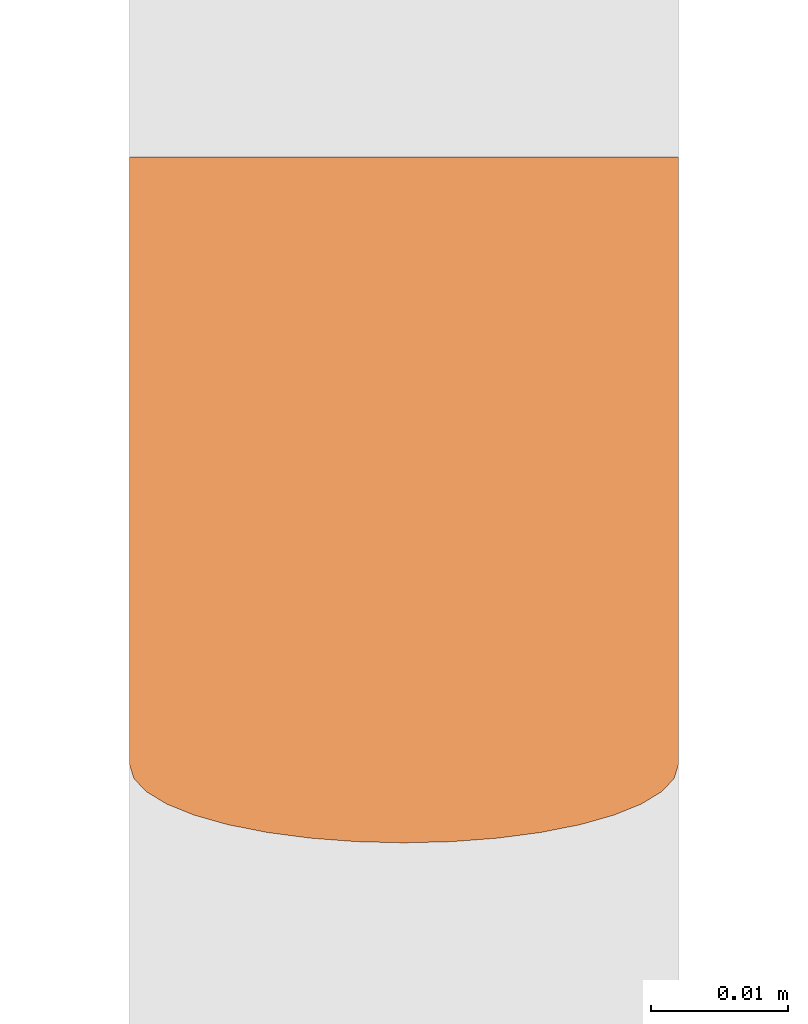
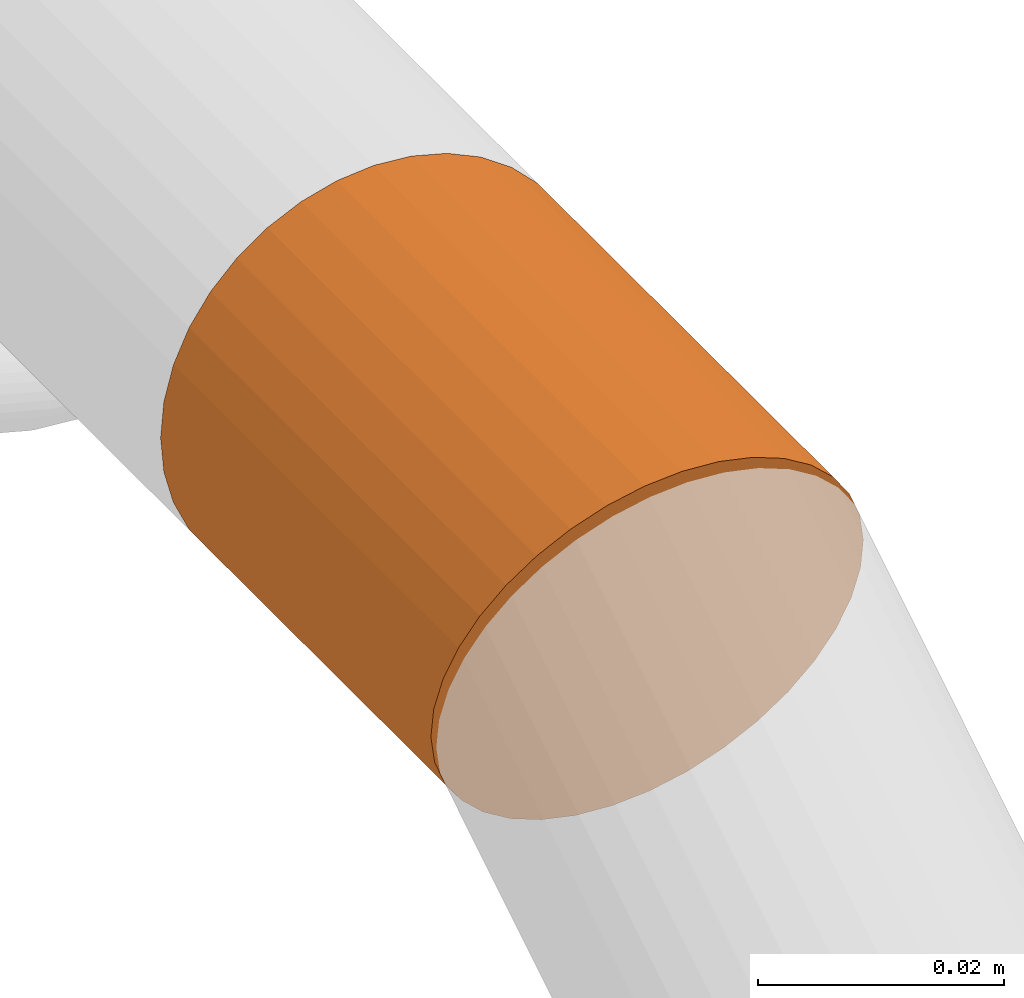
# One storey, part 100 of 100: 1 proxy, 1 element without a shape of its own.
"""IFC2X3 building model written with IfcOpenShell, lengths in millimetres."""

import ifcopenshell
import ifcopenshell.guid

model = None  # the IFC model being written
_history = None  # IfcOwnerHistory: only IFC2X3 demands one
_inside = {}  # id of a spatial element -> (the spatial element, [elements in it])
_under = {}  # id of a project, library or spatial element -> (it, [spatial elements below it])
_declared = {}  # id of a project -> (the project, [libraries it declares])
_typed = {}  # id of a type object -> (the type object, [elements of that type])
_made_of = {}  # id of a material, layer set ... -> (it, [elements and type objects made of it])


def new_model(schema):
    """Start an empty IFC model of exactly this schema.

    Asked for "IFC4X3", IfcOpenShell would pick the latest addendum, in which some entities
    have other attributes; the version numbers below select the first issue.
    IFC2X3 requires an IfcOwnerHistory on every rooted entity: one is made here for all.
    """
    global model, _history
    if schema == "IFC4X3":
        model = ifcopenshell.file(schema_version=(4, 3, 0, 0))
    else:
        model = ifcopenshell.file(schema=schema)
    _inside.clear()
    _under.clear()
    _declared.clear()
    _typed.clear()
    _made_of.clear()
    _history = None
    if model.schema == "IFC2X3":
        org = make("IfcOrganization", Name="unknown")
        user = make(
            "IfcPersonAndOrganization",
            ThePerson=make("IfcPerson", FamilyName="unknown"),
            TheOrganization=org,
        )
        app = make(
            "IfcApplication",
            ApplicationDeveloper=org,
            Version="unknown",
            ApplicationFullName="unknown",
            ApplicationIdentifier="unknown",
        )
        _history = make(
            "IfcOwnerHistory",
            OwningUser=user,
            OwningApplication=app,
            ChangeAction="ADDED",
            CreationDate=0,
        )
    return model


def make(cls, **values):
    """One entity of the class cls with the attributes given. An attribute that is None is left unset."""
    return model.create_entity(
        cls, **{name: value for name, value in values.items() if value is not None}
    )


def entity(cls, *values):
    """Any entity or typed value of the class cls, its attributes in the order of the schema. None: left unset."""
    e = model.create_entity(cls)
    for i, value in enumerate(values):
        if value is not None:
            e[i] = value
    return e


def rooted(cls, **values):
    """An entity with a GlobalId (a new one), such as an element, a storey or a relation."""
    return make(cls, GlobalId=ifcopenshell.guid.new(), OwnerHistory=_history, **values)


def si_unit(unit_type, name, prefix=None):
    """IfcSIUnit, for example si_unit("LENGTHUNIT", "METRE", prefix="MILLI")."""
    return make("IfcSIUnit", UnitType=unit_type, Prefix=prefix, Name=name)


def converted_unit(unit_type, name, factor, base, dimensions=None, offset=None):
    """IfcConversionBasedUnit, such as the inch: factor (a typed value) times the base unit."""
    return make(
        "IfcConversionBasedUnit"
        if offset is None
        else "IfcConversionBasedUnitWithOffset",
        ConversionOffset=offset,
        Dimensions=None
        if dimensions is None
        else entity("IfcDimensionalExponents", *dimensions),
        UnitType=unit_type,
        Name=name,
        ConversionFactor=make(
            "IfcMeasureWithUnit", ValueComponent=factor, UnitComponent=base
        ),
    )


def derived_unit(unit_type, elements):
    """IfcDerivedUnit: a product of units, each with its exponent."""
    return make(
        "IfcDerivedUnit",
        Elements=[
            make("IfcDerivedUnitElement", Unit=unit, Exponent=power)
            for unit, power in elements
        ],
        UnitType=unit_type,
    )


def money_unit(currency):
    """IfcMonetaryUnit."""
    return make("IfcMonetaryUnit", Currency=currency)


def assignment(units):
    """IfcUnitAssignment: the units of a project."""
    return None if units is None else make("IfcUnitAssignment", Units=units)


def point(xyz):
    """IfcCartesianPoint."""
    return None if xyz is None else make("IfcCartesianPoint", Coordinates=xyz)


def direction(xyz):
    """IfcDirection."""
    return None if xyz is None else make("IfcDirection", DirectionRatios=xyz)


def frame(location, z_axis=None, x_axis=None):
    """IfcAxis2Placement3D, a coordinate frame: its origin and axes. An axis left out is left unset."""
    return make(
        "IfcAxis2Placement3D",
        Location=point(location),
        Axis=direction(z_axis),
        RefDirection=direction(x_axis),
    )


def origin_with_axes():
    """The frame at (0, 0, 0) with the z axis (0, 0, 1) and the x axis (1, 0, 0) written out."""
    return frame((0.0, 0.0, 0.0), z_axis=(0.0, 0.0, 1.0), x_axis=(1.0, 0.0, 0.0))


def place(relative_to, where):
    """IfcLocalPlacement: puts the frame where relative to a parent placement (None: the world)."""
    return make(
        "IfcLocalPlacement", PlacementRelTo=relative_to, RelativePlacement=where
    )


def context(
    kind, dimensions, precision=None, world=None, true_north=None, identifier=None
):
    """IfcGeometricRepresentationContext, for example the 3D "Model" context."""
    return make(
        "IfcGeometricRepresentationContext",
        ContextIdentifier=identifier,
        ContextType=kind,
        CoordinateSpaceDimension=dimensions,
        Precision=precision,
        WorldCoordinateSystem=world,
        TrueNorth=true_north,
    )


def subcontext(parent, identifier, kind, view, scale=None):
    """IfcGeometricRepresentationSubContext, for example "Body" below "Model"."""
    return make(
        "IfcGeometricRepresentationSubContext",
        ContextIdentifier=identifier,
        ContextType=kind,
        ParentContext=parent,
        TargetScale=scale,
        TargetView=view,
    )


def project(units=None, contexts=None):
    """IfcProject with its units and contexts."""
    return rooted(
        "IfcProject",
        Name="project",
        RepresentationContexts=contexts,
        UnitsInContext=assignment(units),
    )


def spatial(cls, under=None, at=None, **own):
    """A site, building, storey or space (cls), placed at a placement, below another one or the project."""
    s = rooted(cls, ObjectPlacement=at, **own)
    if under is not None:
        _under.setdefault(under.id(), (under, []))[1].append(s)
    return s


def faces_of(points, faces, orient=None, outer=None):
    """IfcFace entities. A face is a list of loops; a loop is a list of indices into points, from 0.

    orient and outer hold one flag for each loop. By default every Orientation is true, the
    first loop of a face is its IfcFaceOuterBound and the others are IfcFaceBound.
    """
    made = []
    for i, loops in enumerate(faces):
        bounds = []
        for j, loop in enumerate(loops):
            is_outer = j == 0 if outer is None else outer[i][j]
            bounds.append(
                make(
                    "IfcFaceOuterBound" if is_outer else "IfcFaceBound",
                    Bound=make("IfcPolyLoop", Polygon=[points[k] for k in loop]),
                    Orientation=True if orient is None else orient[i][j],
                )
            )
        made.append(make("IfcFace", Bounds=bounds))
    return made


def faceted_brep(points, faces, orient=None, outer=None, voids=None):
    """IfcFacetedBrep: a solid bounded by flat faces; with voids (closed shells), ...WithVoids."""
    shared = [point(p) for p in points]
    hull = make("IfcClosedShell", CfsFaces=faces_of(shared, faces, orient, outer))
    if voids is None:
        return make("IfcFacetedBrep", Outer=hull)
    return make(
        "IfcFacetedBrepWithVoids",
        Outer=hull,
        Voids=[
            make(cls, CfsFaces=faces_of(shared, fs, o, b)) for cls, fs, o, b in voids
        ],
    )


def shape(context_of_items, identifier, shape_type, items):
    """IfcShapeRepresentation: the items that make up one representation, for example the "Body"."""
    return make(
        "IfcShapeRepresentation",
        ContextOfItems=context_of_items,
        RepresentationIdentifier=identifier,
        RepresentationType=shape_type,
        Items=items,
    )


def material(Name=None, Category=None):
    """IfcMaterial."""
    return make("IfcMaterial", Name=Name, Category=Category)


def made_of(thing, what):
    """Note that an element or type object is made of a material, layer set ...; save() writes the relation."""
    if what is not None:
        _made_of.setdefault(what.id(), (what, []))[1].append(thing)
    return thing


def type_object(cls, material=None, **own):
    """A type object (cls), such as IfcWallType, which elements share."""
    return made_of(rooted(cls, **own), material)


def element(
    cls,
    number,
    at=None,
    inside=None,
    cuts=None,
    type_object=None,
    material=None,
    context=None,
    identifier="Body",
    shape_type=None,
    held_by="IfcProductDefinitionShape",
    body=None,
    shapes=None,
    **own,
):
    """One element of the class cls, such as IfcWall. Its Tag is "e" and its number.

    at: its placement. inside: the storey or other place that contains it. cuts: it is an
    opening in that element (IfcRelVoidsElement). A single representation is given by context,
    identifier, shape_type and body (its items); several are given by shapes. held_by: the class
    of the entity that holds the representations. save() writes the other relations.
    """
    e = rooted(cls, Tag="e%d" % number, ObjectPlacement=at, **own)
    if body is not None:
        shapes = [shape(context, identifier, shape_type, body)]
    if shapes is not None:
        e.Representation = make(held_by, Representations=shapes)
    if inside is not None:
        _inside.setdefault(inside.id(), (inside, []))[1].append(e)
    if cuts is not None:
        rooted(
            "IfcRelVoidsElement", RelatingBuildingElement=cuts, RelatedOpeningElement=e
        )
    if type_object is not None:
        _typed.setdefault(type_object.id(), (type_object, []))[1].append(e)
    return made_of(e, material)


def aggregate(whole, parts):
    """IfcRelAggregates: a whole, such as a stair, and the parts it consists of."""
    return rooted("IfcRelAggregates", RelatingObject=whole, RelatedObjects=parts)


def save(model, path):
    """Write the relations noted so far, then the file.

    IfcRelAggregates (storeys below a building ...), IfcRelContainedInSpatialStructure (elements
    in a storey), IfcRelDefinesByType, IfcRelAssociatesMaterial and IfcRelDeclares: one each for
    every whole, place, type object, material and project.
    """
    for whole, parts in _under.values():
        aggregate(whole, parts)
    for where, things in _inside.values():
        rooted(
            "IfcRelContainedInSpatialStructure",
            RelatedElements=things,
            RelatingStructure=where,
        )
    for kind, things in _typed.values():
        rooted("IfcRelDefinesByType", RelatedObjects=things, RelatingType=kind)
    for what, things in _made_of.values():
        rooted("IfcRelAssociatesMaterial", RelatedObjects=things, RelatingMaterial=what)
    for by, libraries in _declared.values():
        rooted("IfcRelDeclares", RelatingContext=by, RelatedDefinitions=libraries)
    model.write(path)


model = new_model("IFC2X3")

# Units and contexts
model_context = context("Model", 3, precision=0.01, world=origin_with_axes(), true_north=direction((0.0, 1.0)))
body_context = subcontext(model_context, "Body", "Model", "MODEL_VIEW")
ifc_project = project(units=[si_unit("LENGTHUNIT", "METRE", prefix="MILLI"), si_unit("AREAUNIT", "SQUARE_METRE"), si_unit("VOLUMEUNIT", "CUBIC_METRE"), converted_unit("PLANEANGLEUNIT", "DEGREE", entity("IfcPlaneAngleMeasure", 0.0174532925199), si_unit("PLANEANGLEUNIT", "RADIAN"), dimensions=[0, 0, 0, 0, 0, 0, 0]), si_unit("SOLIDANGLEUNIT", "STERADIAN"), money_unit("EUR"), converted_unit("TIMEUNIT", "Year", entity("IfcTimeMeasure", 31556926.0), si_unit("TIMEUNIT", "SECOND"), dimensions=[0, 0, 1, 0, 0, 0, 0]), si_unit("MASSUNIT", "GRAM", prefix="KILO"), si_unit("THERMODYNAMICTEMPERATUREUNIT", "DEGREE_CELSIUS"), si_unit("LUMINOUSINTENSITYUNIT", "LUMEN"), si_unit("ENERGYUNIT", "JOULE", prefix="MEGA"), derived_unit("THERMALCONDUCTANCEUNIT", [(si_unit("POWERUNIT", "WATT"), 1), (si_unit("LENGTHUNIT", "METRE"), -1), (si_unit("THERMODYNAMICTEMPERATUREUNIT", "KELVIN"), -1)]), derived_unit("SPECIFICHEATCAPACITYUNIT", [(si_unit("ENERGYUNIT", "JOULE"), 1), (si_unit("MASSUNIT", "GRAM", prefix="KILO"), -1), (si_unit("THERMODYNAMICTEMPERATUREUNIT", "KELVIN"), -1)]), derived_unit("MASSDENSITYUNIT", [(si_unit("MASSUNIT", "GRAM", prefix="KILO"), 1), (si_unit("VOLUMEUNIT", "CUBIC_METRE"), -1)])], contexts=[model_context])

# Site, building, storey
site_placement = place(None, origin_with_axes())
site = spatial("IfcSite", under=ifc_project, at=site_placement, Name="Politse- ja Piirivalveameti ning Päästeameti ühishoone", CompositionType="ELEMENT")
building_placement = place(site_placement, origin_with_axes())
building = spatial("IfcBuilding", under=site, at=building_placement, Name="Politse- ja Piirivalveameti ning Päästeameti ühishoone", CompositionType="ELEMENT")
storey_placement = place(building_placement, frame((0.0, 0.0, 3800.0), z_axis=(0.0, 0.0, 1.0), x_axis=(1.0, 0.0, 0.0)))
storey = spatial("IfcBuildingStorey", under=building, at=storey_placement, Name="Teine korrus", CompositionType="ELEMENT", Elevation=3800.0)

# Railing, proxy
railing_type = type_object("IfcRailingType", Name="Railing Type", PredefinedType="NOTDEFINED")
railing_placement = place(storey_placement, frame((62860.557259, 16419.9520832, -3627.27272727), z_axis=(0.0, 0.0, 1.0), x_axis=(1.0, 0.0, 0.0)))
railing = element("IfcRailing", 1, at=railing_placement, inside=storey, type_object=railing_type, Name="PIIRE 5", PredefinedType="NOTDEFINED")
ifc_material = material(Name="Teras - Konstruktsioon")
building_element_proxy_type = type_object("IfcBuildingElementProxyType", Name="IfcBuildingElementProxy", PredefinedType="NOTDEFINED")
proxy_placement = place(railing_placement, origin_with_axes())
proxy = element("IfcBuildingElementProxy", 2, at=proxy_placement, type_object=building_element_proxy_type, material=ifc_material, Name="HANDRAIL CONNECTION - 001", context=body_context, shape_type="Brep", body=[
    faceted_brep([(-65.3038449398, 2850.0, 2703.79976372), (-65.0, 2850.0, 2707.27272727), (-65.0, 2805.67257746, 2707.27272727), (-65.3038449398, 2806.6576102, 2703.79976372), (-65.3038449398, 2850.0, 2710.74569083), (-66.2061475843, 2850.0, 2700.43232441), (-67.6794919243, 2850.0, 2697.27272727), (-69.6791111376, 2850.0, 2694.41697508), (-72.1442478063, 2850.0, 2691.95183841), (-75.0, 2850.0, 2689.9522192), (-78.1595971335, 2850.0, 2688.47887486), (-81.5270364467, 2850.0, 2687.57657221), (-85.0, 2850.0, 2687.27272727), (-88.4729635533, 2850.0, 2687.57657221), (-91.8404028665, 2850.0, 2688.47887486), (-95.0, 2850.0, 2689.9522192), (-97.8557521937, 2850.0, 2691.95183841), (-100.320888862, 2850.0, 2694.41697508), (-102.320508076, 2850.0, 2697.27272727), (-103.793852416, 2850.0, 2700.43232441), (-104.69615506, 2850.0, 2703.79976372), (-105.0, 2850.0, 2707.27272727), (-104.69615506, 2850.0, 2710.74569083), (-103.793852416, 2850.0, 2714.11313014), (-102.320508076, 2850.0, 2717.27272727), (-100.320888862, 2850.0, 2720.12847947), (-97.8557521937, 2850.0, 2722.59361614), (-95.0, 2850.0, 2724.59323535), (-91.8404028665, 2850.0, 2726.06657969), (-88.4729635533, 2850.0, 2726.96888233), (-85.0, 2850.0, 2727.27272727), (-81.5270364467, 2850.0, 2726.96888233), (-78.1595971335, 2850.0, 2726.06657969), (-75.0, 2850.0, 2724.59323535), (-72.1442478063, 2850.0, 2722.59361614), (-69.6791111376, 2850.0, 2720.12847947), (-67.6794919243, 2850.0, 2717.27272727), (-66.2061475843, 2850.0, 2714.11313014), (-65.3038449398, 2804.68754472, 2710.74569083), (-102.320508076, 2802.83628873, 2717.27272727), (-103.793852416, 2803.73244171, 2714.11313014), (-104.69615506, 2804.68754472, 2710.74569083), (-105.0, 2805.67257746, 2707.27272727), (-104.69615506, 2806.6576102, 2703.79976372), (-103.793852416, 2807.61271322, 2700.43232441), (-102.320508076, 2808.50886619, 2697.27272727), (-100.320888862, 2809.31883997, 2694.41697508), (-97.8557521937, 2810.01802391, 2691.95183841), (-95.0, 2810.58517365, 2689.9522192), (-91.8404028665, 2811.00305664, 2688.47887486), (-88.4729635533, 2811.25897573, 2687.57657221), (-85.0, 2811.34515492, 2687.27272727), (-81.5270364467, 2811.25897573, 2687.57657221), (-78.1595971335, 2811.00305664, 2688.47887486), (-75.0, 2810.58517365, 2689.9522192), (-72.1442478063, 2810.01802391, 2691.95183841), (-69.6791111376, 2809.31883997, 2694.41697508), (-67.6794919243, 2808.50886619, 2697.27272727), (-66.2061475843, 2807.61271322, 2700.43232441), (-66.2061475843, 2803.73244171, 2714.11313014), (-67.6794919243, 2802.83628873, 2717.27272727), (-69.6791111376, 2802.02631495, 2720.12847947), (-72.1442478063, 2801.32713102, 2722.59361614), (-75.0, 2800.75998128, 2724.59323535), (-78.1595971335, 2800.34209828, 2726.06657969), (-81.5270364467, 2800.0861792, 2726.96888233), (-85.0, 2800.0, 2727.27272727), (-88.4729635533, 2800.0861792, 2726.96888233), (-91.8404028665, 2800.34209828, 2726.06657969), (-95.0, 2800.75998128, 2724.59323535), (-97.8557521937, 2801.32713102, 2722.59361614), (-100.320888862, 2802.02631495, 2720.12847947)], [[[0, 1, 2, 3]], [[4, 1, 0, 5, 6, 7, 8, 9, 10, 11, 12, 13, 14, 15, 16, 17, 18, 19, 20, 21, 22, 23, 24, 25, 26, 27, 28, 29, 30, 31, 32, 33, 34, 35, 36, 37]], [[1, 4, 38, 2]], [[39, 40, 41, 42, 43, 44, 45, 46, 47, 48, 49, 50, 51, 52, 53, 54, 55, 56, 57, 58, 3, 2, 38, 59, 60, 61, 62, 63, 64, 65, 66, 67, 68, 69, 70, 71]], [[5, 0, 3, 58]], [[6, 5, 58, 57]], [[7, 6, 57, 56]], [[8, 7, 56, 55]], [[9, 8, 55, 54]], [[10, 9, 54, 53]], [[11, 10, 53, 52]], [[12, 11, 52, 51]], [[13, 12, 51, 50]], [[14, 13, 50, 49]], [[15, 14, 49, 48]], [[16, 15, 48, 47]], [[17, 16, 47, 46]], [[18, 17, 46, 45]], [[19, 18, 45, 44]], [[20, 19, 44, 43]], [[21, 20, 43, 42]], [[22, 21, 42, 41]], [[23, 22, 41, 40]], [[24, 23, 40, 39]], [[25, 24, 39, 71]], [[26, 25, 71, 70]], [[27, 26, 70, 69]], [[28, 27, 69, 68]], [[29, 28, 68, 67]], [[30, 29, 67, 66]], [[31, 30, 66, 65]], [[32, 31, 65, 64]], [[33, 32, 64, 63]], [[34, 33, 63, 62]], [[35, 34, 62, 61]], [[36, 35, 61, 60]], [[37, 36, 60, 59]], [[4, 37, 59, 38]]]),
])
aggregate(railing, [proxy])

save(model, "model.ifc")
